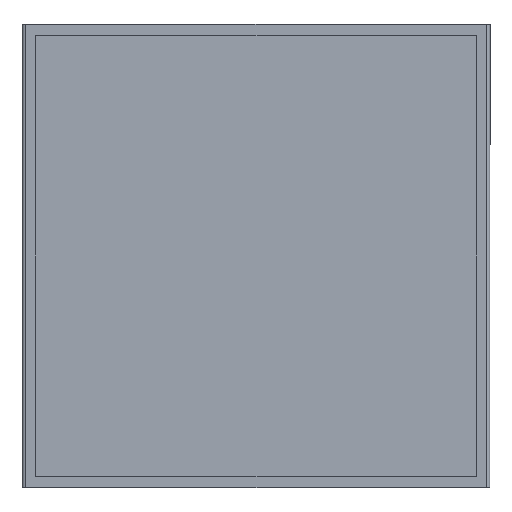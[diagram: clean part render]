
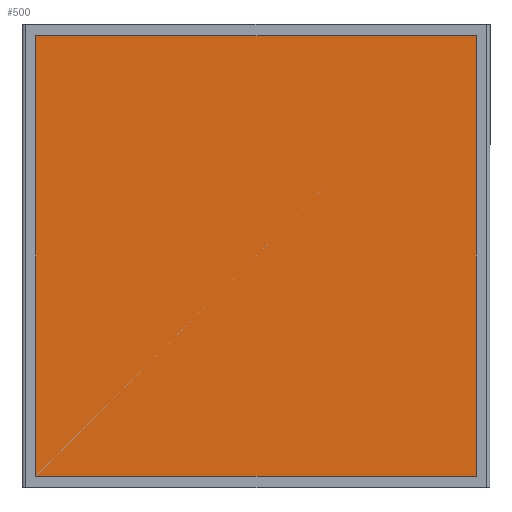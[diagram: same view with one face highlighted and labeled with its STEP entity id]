
A CAD part, front view. The second image highlights one B-rep face of the part: STEP entity #500.
In plain terms, the highlighted planar face has unit normal (0, -1, 0).
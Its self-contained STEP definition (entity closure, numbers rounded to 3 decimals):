
#56 = LINE ( 'NONE', #2090, #6418 ) ;
#393 = ORIENTED_EDGE ( 'NONE', *, *, #5596, .T. ) ;
#500 = ADVANCED_FACE ( 'NONE', ( #5080 ), #5179, .T. ) ;
#655 = DIRECTION ( 'NONE',  ( -1., 0., 0. ) ) ;
#887 = EDGE_CURVE ( 'NONE', #3879, #1848, #56, .T. ) ;
#975 = DIRECTION ( 'NONE',  ( 0., 0., 1. ) ) ;
#1345 = CARTESIAN_POINT ( 'NONE',  ( 14.413, -6.233, -10.305 ) ) ;
#1415 = CARTESIAN_POINT ( 'NONE',  ( -14.587, -6.233, -10.305 ) ) ;
#1779 = CARTESIAN_POINT ( 'NONE',  ( -14.587, -6.233, -10.305 ) ) ;
#1848 = VERTEX_POINT ( 'NONE', #2786 ) ;
#1947 = LINE ( 'NONE', #5976, #2783 ) ;
#2090 = CARTESIAN_POINT ( 'NONE',  ( 14.413, -6.233, -10.305 ) ) ;
#2304 = EDGE_LOOP ( 'NONE', ( #2512, #393, #6522, #4057 ) ) ;
#2355 = VERTEX_POINT ( 'NONE', #3711 ) ;
#2442 = VECTOR ( 'NONE', #2832, 1000. ) ;
#2512 = ORIENTED_EDGE ( 'NONE', *, *, #887, .T. ) ;
#2783 = VECTOR ( 'NONE', #655, 1000. ) ;
#2786 = CARTESIAN_POINT ( 'NONE',  ( 14.413, -6.233, 18.695 ) ) ;
#2805 = CARTESIAN_POINT ( 'NONE',  ( 14.413, -6.233, -10.305 ) ) ;
#2832 = DIRECTION ( 'NONE',  ( 0., 0., -1. ) ) ;
#2847 = EDGE_CURVE ( 'NONE', #4215, #3879, #3191, .T. ) ;
#2853 = CARTESIAN_POINT ( 'NONE',  ( 14.413, -6.233, 18.695 ) ) ;
#2891 = EDGE_CURVE ( 'NONE', #2355, #4215, #4762, .T. ) ;
#3191 = LINE ( 'NONE', #2805, #3668 ) ;
#3668 = VECTOR ( 'NONE', #5832, 1000. ) ;
#3711 = CARTESIAN_POINT ( 'NONE',  ( -14.587, -6.233, 18.695 ) ) ;
#3879 = VERTEX_POINT ( 'NONE', #1345 ) ;
#4057 = ORIENTED_EDGE ( 'NONE', *, *, #2847, .T. ) ;
#4215 = VERTEX_POINT ( 'NONE', #1415 ) ;
#4762 = LINE ( 'NONE', #1779, #2442 ) ;
#5080 = FACE_OUTER_BOUND ( 'NONE', #2304, .T. ) ;
#5179 = PLANE ( 'NONE',  #5537 ) ;
#5285 = DIRECTION ( 'NONE',  ( 0., 0., 1. ) ) ;
#5537 = AXIS2_PLACEMENT_3D ( 'NONE', #2853, #5789, #5285 ) ;
#5596 = EDGE_CURVE ( 'NONE', #1848, #2355, #1947, .T. ) ;
#5789 = DIRECTION ( 'NONE',  ( 0., -1., 0. ) ) ;
#5832 = DIRECTION ( 'NONE',  ( 1., 0., 0. ) ) ;
#5976 = CARTESIAN_POINT ( 'NONE',  ( 14.413, -6.233, 18.695 ) ) ;
#6418 = VECTOR ( 'NONE', #975, 1000. ) ;
#6522 = ORIENTED_EDGE ( 'NONE', *, *, #2891, .T. ) ;
